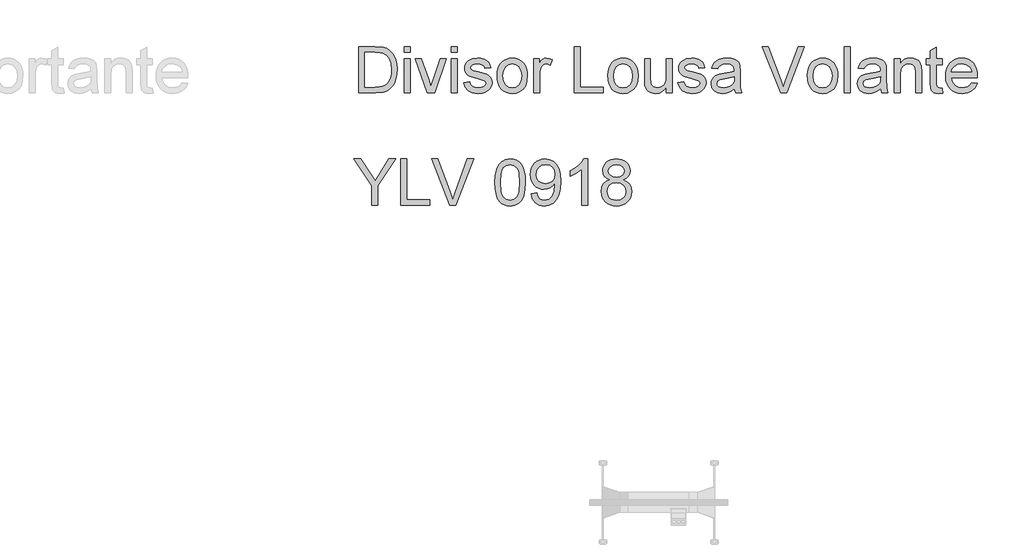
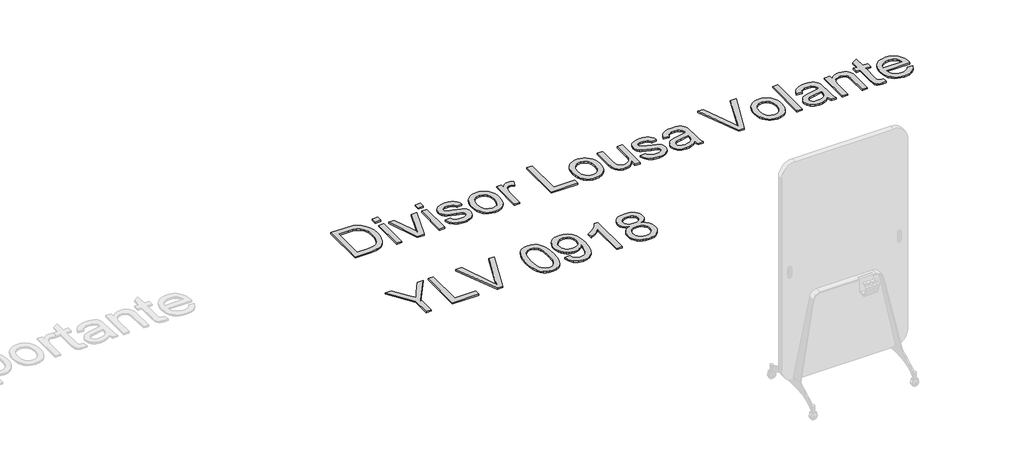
# One storey, part 14 of 26: 1 proxy.
"""IFC4 building model written with IfcOpenShell, lengths in millimetres."""

from ifc_helpers import new_model, si_unit, origin, origin_with_axes, place, context, project, spatial, polyline, outline, extrude, element, save

model = new_model("IFC4")

# Units and contexts
model_context = context("Model", 3, world=origin())
ifc_project = project(units=[si_unit("LENGTHUNIT", "METRE", prefix="MILLI")], contexts=[model_context])

# Site, building, storey
site = spatial("IfcSite", under=ifc_project)
building = spatial("IfcBuilding", under=site)
storey = spatial("IfcBuildingStorey", under=building, Name="Marelli - Linha YOUNG - Planta Baixa", Elevation=0.0)

# Proxy
placement = place(None, origin())
element("IfcBuildingElementProxy", 1, Name="300mm Arial", ObjectType="300mm Arial", at=placement, inside=storey, context=model_context, shape_type="SweptSolid", body=[
    extrude(outline(polyline([(-1099.3648392, -19914.6418665), (-1099.3648392, -19613.2729361), (-995.4013873, -19613.2729361), (-941.6170396, -19617.6139436), (-917.5943453, -19625.983259), (-897.3240474, -19639.1718285), (-876.4835324, -19662.127665), (-861.6394939, -19690.6753079), (-852.7551437, -19724.262934), (-849.7936936, -19762.3387205), (-851.7986505, -19794.684745), (-857.8135211, -19823.1496143), (-866.9737828, -19847.3838408), (-878.4149129, -19867.0379364), (-891.5850883, -19882.5533595), (-905.9324861, -19894.3715686), (-922.4044024, -19903.1363571), (-941.9481334, -19909.4915186), (-990.3981922, -19914.6418665), (-1099.3648392, -19914.6418665)]), holes=[polyline([(-1061.6937229, -19876.9707502), (-995.0335053, -19876.9707502), (-967.4607498, -19875.6095868), (-946.5466584, -19871.5260967), (-930.7645208, -19864.9594031), (-918.5876267, -19856.1486293), (-905.5002248, -19839.8422599), (-895.6685784, -19818.7350304), (-889.5157521, -19792.7349704), (-887.4648099, -19761.7501093), (-891.4839207, -19720.6944787), (-903.5412531, -19690.3810023), (-921.3559387, -19669.5588813), (-942.6471092, -19656.9773171), (-964.3153587, -19652.4523686), (-996.0635749, -19650.9440524), (-1061.6937229, -19650.9440524), (-1061.6937229, -19876.9707502)])]), origin_with_axes(), (0.0, 0.0, 1.0), 10.0),
    extrude(outline(polyline([(-802.7047983, -19650.9440524), (-802.7047983, -19613.2729361), (-765.0336819, -19613.2729361), (-765.0336819, -19650.9440524), (-802.7047983, -19650.9440524)])), origin_with_axes(), (0.0, 0.0, 1.0), 10.0),
    extrude(outline(polyline([(-802.7047983, -19914.6418665), (-802.7047983, -19693.3240582), (-765.0336819, -19693.3240582), (-765.0336819, -19914.6418665), (-802.7047983, -19914.6418665)])), origin_with_axes(), (0.0, 0.0, 1.0), 10.0),
    extrude(outline(polyline([(-654.227625, -19914.6418665), (-732.0714552, -19693.3240582), (-692.1930469, -19693.3240582), (-645.0305751, -19825.9087293), (-630.8303301, -19870.4960271), (-616.9243907, -19828.4103269), (-569.4676133, -19693.3240582), (-529.589205, -19693.3240582), (-606.476542, -19914.6418665), (-654.227625, -19914.6418665)])), origin_with_axes(), (0.0, 0.0, 1.0), 10.0),
    extrude(outline(polyline([(-496.6269783, -19914.6418665), (-496.6269783, -19693.3240582), (-458.955862, -19693.3240582), (-458.955862, -19914.6418665), (-496.6269783, -19914.6418665)])), origin_with_axes(), (0.0, 0.0, 1.0), 10.0),
    extrude(outline(polyline([(-496.6269783, -19650.9440524), (-496.6269783, -19613.2729361), (-458.955862, -19613.2729361), (-458.955862, -19650.9440524), (-496.6269783, -19650.9440524)])), origin_with_axes(), (0.0, 0.0, 1.0), 10.0),
    extrude(outline(polyline([(-416.5758561, -19848.717413), (-378.9047398, -19844.0085235), (-372.9634456, -19860.1217548), (-361.4671332, -19871.9675551), (-344.3422264, -19879.2516186), (-321.5151486, -19881.6796398), (-298.9639823, -19879.4539537), (-283.1082683, -19872.7768955), (-273.7272774, -19863.101599), (-270.6002804, -19851.8811982), (-273.7456715, -19842.2794781), (-283.1818447, -19834.9586264), (-321.956607, -19824.2164721), (-378.6840106, -19805.7855842), (-393.0406055, -19796.5241549), (-403.4424689, -19784.2644874), (-409.7608422, -19769.7883309), (-411.8669666, -19753.8774346), (-410.1747094, -19739.2817165), (-405.0979379, -19725.8080384), (-397.0965045, -19713.9898293), (-386.6302617, -19704.3605181), (-362.6811438, -19693.2136936), (-330.27074, -19688.6151687), (-305.7514051, -19690.4637757), (-284.4326434, -19696.0095968), (-267.2893425, -19704.710006), (-255.2963894, -19716.0223773), (-247.3501383, -19730.7836424), (-242.3469432, -19749.8307327), (-280.0180595, -19754.5396222), (-284.7729343, -19742.6846249), (-294.1815163, -19733.7542895), (-308.3357761, -19728.1532861), (-327.3276841, -19726.286285), (-348.9591454, -19728.0705127), (-363.3801196, -19733.4231957), (-371.4919176, -19741.1487176), (-374.1958503, -19750.0514619), (-369.7076899, -19761.0143453), (-355.6545977, -19769.3284784), (-323.2074057, -19777.3483059), (-267.9147419, -19795.0802181), (-253.3098267, -19803.5598981), (-242.2365786, -19815.166575), (-235.2560177, -19829.9370371), (-232.9291641, -19847.9080726), (-235.6606879, -19866.4861134), (-243.8552594, -19883.9605081), (-257.2001788, -19898.9608965), (-275.3827464, -19910.116918), (-297.3453015, -19917.0422966), (-322.0301834, -19919.3507561), (-360.0139994, -19914.8993839), (-387.7339077, -19901.5452675), (-406.2383721, -19879.4355596), (-416.5758561, -19848.717413)])), origin_with_axes(), (0.0, 0.0, 1.0), 10.0),
    extrude(outline(polyline([(-199.9669374, -19803.9829624), (-197.9297908, -19775.3203564), (-191.8183512, -19750.621679), (-181.6326184, -19729.88693), (-167.3725926, -19713.1161096), (-153.0159977, -19702.3969479), (-137.1694808, -19694.7404039), (-119.8330418, -19690.1464775), (-101.0066807, -19688.6151687), (-80.2236472, -19690.4798706), (-61.431775, -19696.0739761), (-44.6310642, -19705.3974855), (-29.8215146, -19718.4503985), (-17.7342918, -19734.7912569), (-9.1005612, -19753.9786022), (-3.9203229, -19776.0124344), (-2.1935767, -19800.8927536), (-5.2469973, -19838.950146), (-14.407259, -19867.9208531), (-29.4076473, -19889.6166938), (-49.9814479, -19905.8494868), (-74.4180095, -19915.9754388), (-101.0066807, -19919.3507561), (-122.0932168, -19917.492952), (-141.0598329, -19911.9195398), (-157.906529, -19902.6305194), (-172.6333051, -19889.6258909), (-184.5917692, -19873.1263834), (-193.1335293, -19853.3527261), (-198.2585853, -19830.3049191), (-199.9669374, -19803.9829624)]), holes=[polyline([(-162.2958211, -19803.909386), (-157.9364194, -19838.0028499), (-144.8582145, -19862.2922586), (-125.1765277, -19876.8327945), (-101.0066807, -19881.6796398), (-76.9471982, -19876.8052033), (-57.3022996, -19862.181894), (-44.2240947, -19837.5705885), (-39.8646931, -19802.7321636), (-44.2516858, -19769.6319811), (-57.4126642, -19745.6736661), (-77.0851539, -19731.1331303), (-101.0066807, -19726.286285), (-125.1765277, -19731.1147362), (-144.8582145, -19745.6000897), (-157.9364194, -19769.8343162), (-162.2958211, -19803.909386)])]), origin_with_axes(), (0.0, 0.0, 1.0), 10.0),
    extrude(outline(polyline([(40.1864291, -19914.6418665), (40.1864291, -19693.3240582), (73.1486559, -19693.3240582), (73.1486559, -19726.0655558), (85.3255499, -19707.0828449), (96.5459508, -19695.8992322), (107.8031398, -19690.4361846), (120.0903984, -19688.6151687), (138.8523802, -19691.5214365), (157.9086676, -19700.2402397), (145.3271033, -19734.0118069), (132.0833515, -19728.2176655), (118.8395997, -19726.286285), (107.5916077, -19728.1440891), (97.5392321, -19733.7175013), (89.4182371, -19742.5834574), (83.9643865, -19754.318893), (79.3842557, -19775.3617432), (77.8575454, -19798.3175797), (77.8575454, -19914.6418665), (40.1864291, -19914.6418665)])), origin_with_axes(), (0.0, 0.0, 1.0), 10.0),
    extrude(outline(polyline([(303.8842432, -19914.6418665), (303.8842432, -19613.2729361), (341.5553595, -19613.2729361), (341.5553595, -19876.9707502), (492.2398248, -19876.9707502), (492.2398248, -19914.6418665), (303.8842432, -19914.6418665)])), origin_with_axes(), (0.0, 0.0, 1.0), 10.0),
    extrude(outline(polyline([(520.493162, -19803.9829624), (522.5303085, -19775.3203564), (528.6417482, -19750.621679), (538.8274809, -19729.88693), (553.0875068, -19713.1161096), (567.4441016, -19702.3969479), (583.2906186, -19694.7404039), (600.6270576, -19690.1464775), (619.4534187, -19688.6151687), (640.2364522, -19690.4798706), (659.0283243, -19696.0739761), (675.8290352, -19705.3974855), (690.6385848, -19718.4503985), (702.7258076, -19734.7912569), (711.3595381, -19753.9786022), (716.5397765, -19776.0124344), (718.2665226, -19800.8927536), (715.213102, -19838.950146), (706.0528404, -19867.9208531), (691.052452, -19889.6166938), (670.4786514, -19905.8494868), (646.0420899, -19915.9754388), (619.4534187, -19919.3507561), (598.3668826, -19917.492952), (579.4002665, -19911.9195398), (562.5535704, -19902.6305194), (547.8267942, -19889.6258909), (535.8683301, -19873.1263834), (527.3265701, -19853.3527261), (522.201514, -19830.3049191), (520.493162, -19803.9829624)]), holes=[polyline([(558.1642783, -19803.909386), (562.5236799, -19838.0028499), (575.6018849, -19862.2922586), (595.2835716, -19876.8327945), (619.4534187, -19881.6796398), (643.5129012, -19876.8052033), (663.1577997, -19862.181894), (676.2360047, -19837.5705885), (680.5954063, -19802.7321636), (676.2084135, -19769.6319811), (663.0474351, -19745.6736661), (643.3749454, -19731.1331303), (619.4534187, -19726.286285), (595.2835716, -19731.1147362), (575.6018849, -19745.6000897), (562.5236799, -19769.8343162), (558.1642783, -19803.909386)])]), origin_with_axes(), (0.0, 0.0, 1.0), 10.0),
    extrude(outline(polyline([(901.9132146, -19914.6418665), (901.9132146, -19876.6028682), (888.2831867, -19895.3050692), (872.4090786, -19908.6637841), (854.2908903, -19916.6790131), (833.9286219, -19919.3507561), (815.5805074, -19917.4745579), (798.5015858, -19911.8459634), (784.172582, -19903.3846775), (774.0742213, -19893.0104052), (762.8538204, -19865.2721028), (760.6465284, -19830.2497368), (760.6465284, -19693.3240582), (798.3176448, -19693.3240582), (798.3176448, -19812.5178247), (800.5985131, -19850.924705), (806.0891519, -19863.7361954), (815.4977339, -19873.4758713), (828.1988598, -19879.6286976), (843.5671302, -19881.6796398), (859.8183173, -19879.5827124), (875.0210407, -19873.2919303), (887.5566197, -19863.3867076), (895.8063735, -19850.4464584), (900.3865043, -19832.7237433), (901.9132146, -19808.4711227), (901.9132146, -19693.3240582), (939.5843309, -19693.3240582), (939.5843309, -19914.6418665), (901.9132146, -19914.6418665)])), origin_with_axes(), (0.0, 0.0, 1.0), 10.0),
    extrude(outline(polyline([(977.2554472, -19848.717413), (1014.9265635, -19844.0085235), (1020.8678577, -19860.1217548), (1032.3641701, -19871.9675551), (1049.489077, -19879.2516186), (1072.3161548, -19881.6796398), (1094.8673211, -19879.4539537), (1110.7230351, -19872.7768955), (1120.1040259, -19863.101599), (1123.2310229, -19851.8811982), (1120.0856318, -19842.2794781), (1110.6494587, -19834.9586264), (1071.8746964, -19824.2164721), (1015.1472927, -19805.7855842), (1000.7906979, -19796.5241549), (990.3888344, -19784.2644874), (984.0704612, -19769.7883309), (981.9643367, -19753.8774346), (983.6565939, -19739.2817165), (988.7333655, -19725.8080384), (996.7347989, -19713.9898293), (1007.2010416, -19704.3605181), (1031.1501595, -19693.2136936), (1063.5605633, -19688.6151687), (1088.0798983, -19690.4637757), (1109.3986599, -19696.0095968), (1126.5419609, -19704.710006), (1138.5349139, -19716.0223773), (1146.481165, -19730.7836424), (1151.4843601, -19749.8307327), (1113.8132438, -19754.5396222), (1109.058369, -19742.6846249), (1099.649787, -19733.7542895), (1085.4955272, -19728.1532861), (1066.5036192, -19726.286285), (1044.8721579, -19728.0705127), (1030.4511837, -19733.4231957), (1022.3393857, -19741.1487176), (1019.6354531, -19750.0514619), (1024.1236134, -19761.0143453), (1038.1767056, -19769.3284784), (1070.6238976, -19777.3483059), (1125.9165615, -19795.0802181), (1140.5214767, -19803.5598981), (1151.5947247, -19815.166575), (1158.5752856, -19829.9370371), (1160.9021392, -19847.9080726), (1158.1706154, -19866.4861134), (1149.9760439, -19883.9605081), (1136.6311246, -19898.9608965), (1118.448557, -19910.116918), (1096.4860018, -19917.0422966), (1071.80112, -19919.3507561), (1033.817304, -19914.8993839), (1006.0973956, -19901.5452675), (987.5929313, -19879.4355596), (977.2554472, -19848.717413)])), origin_with_axes(), (0.0, 0.0, 1.0), 10.0),
    extrude(outline(polyline([(1344.5488312, -19886.3885293), (1326.5502046, -19901.821179), (1308.0181491, -19911.9195398), (1288.5296004, -19917.492952), (1267.6614942, -19919.3507561), (1236.1799925, -19914.8809898), (1212.9574415, -19901.4716911), (1198.6376349, -19881.1094227), (1193.864366, -19855.7807473), (1195.6669877, -19840.1641566), (1201.0748531, -19825.9823057), (1209.4165773, -19813.8421999), (1220.0207758, -19804.3508444), (1246.3979149, -19791.9900093), (1278.9922597, -19786.3246266), (1317.5095045, -19780.3649383), (1344.328102, -19773.3751804), (1344.5488312, -19764.9874709), (1341.9552631, -19748.1752637), (1334.1745589, -19737.1755921), (1316.7737406, -19729.0086118), (1292.5303171, -19726.286285), (1270.0895154, -19728.0981038), (1254.4177424, -19733.5335603), (1243.7307704, -19743.5859358), (1236.2443718, -19759.2485118), (1198.5732555, -19754.5396222), (1205.112358, -19733.9382305), (1214.8704279, -19717.7514227), (1228.7579732, -19705.3721936), (1247.6855019, -19696.1935378), (1270.8344764, -19690.509761), (1297.3863594, -19688.6151687), (1322.8529905, -19690.2890318), (1343.040515, -19695.310621), (1358.2616326, -19702.861399), (1368.8290429, -19712.1228282), (1375.8371949, -19723.5731553), (1380.3805375, -19737.6906269), (1382.2199475, -19770.6528536), (1382.2199475, -19817.5210198), (1384.1329339, -19882.9672267), (1391.6377266, -19914.6418665), (1353.9666103, -19914.6418665), (1344.5488312, -19886.3885293)]), holes=[polyline([(1344.5488312, -19811.0462967), (1283.7747256, -19822.5977913), (1251.3643218, -19828.7046325), (1236.6858302, -19838.6374463), (1231.5354823, -19853.1319969), (1234.3405825, -19864.3340037), (1242.7558831, -19873.5126595), (1256.5974432, -19879.6378947), (1275.6813217, -19881.6796398), (1295.9148314, -19879.4263625), (1313.7938964, -19872.6665309), (1328.288447, -19862.7061259), (1338.3684137, -19850.8511286), (1342.8381799, -19838.6374463), (1344.328102, -19821.7148746), (1344.5488312, -19811.0462967)])]), origin_with_axes(), (0.0, 0.0, 1.0), 10.0),
    extrude(outline(polyline([(1645.4763032, -19914.6418665), (1525.5467728, -19613.2729361), (1565.8666395, -19613.2729361), (1646.1384908, -19830.3968896), (1662.398875, -19879.325195), (1678.43853, -19830.3968896), (1758.9311106, -19613.2729361), (1799.2509772, -19613.2729361), (1684.3982183, -19914.6418665), (1645.4763032, -19914.6418665)])), origin_with_axes(), (0.0, 0.0, 1.0), 10.0),
    extrude(outline(polyline([(1820.1466746, -19803.9829624), (1822.1838211, -19775.3203564), (1828.2952608, -19750.621679), (1838.4809935, -19729.88693), (1852.7410193, -19713.1161096), (1867.0976142, -19702.3969479), (1882.9441311, -19694.7404039), (1900.2805702, -19690.1464775), (1919.1069313, -19688.6151687), (1939.8899647, -19690.4798706), (1958.6818369, -19696.0739761), (1975.4825478, -19705.3974855), (1990.2920973, -19718.4503985), (2002.3793201, -19734.7912569), (2011.0130507, -19753.9786022), (2016.1932891, -19776.0124344), (2017.9200352, -19800.8927536), (2014.8666146, -19838.950146), (2005.7063529, -19867.9208531), (1990.7059646, -19889.6166938), (1970.132164, -19905.8494868), (1945.6956025, -19915.9754388), (1919.1069313, -19919.3507561), (1898.0203951, -19917.492952), (1879.053779, -19911.9195398), (1862.2070829, -19902.6305194), (1847.4803068, -19889.6258909), (1835.5218427, -19873.1263834), (1826.9800826, -19853.3527261), (1821.8550266, -19830.3049191), (1820.1466746, -19803.9829624)]), holes=[polyline([(1857.8177909, -19803.909386), (1862.1771925, -19838.0028499), (1875.2553974, -19862.2922586), (1894.9370842, -19876.8327945), (1919.1069313, -19881.6796398), (1943.1664137, -19876.8052033), (1962.8113123, -19862.181894), (1975.8895172, -19837.5705885), (1980.2489189, -19802.7321636), (1975.8619261, -19769.6319811), (1962.7009477, -19745.6736661), (1943.028458, -19731.1331303), (1919.1069313, -19726.286285), (1894.9370842, -19731.1147362), (1875.2553974, -19745.6000897), (1862.1771925, -19769.8343162), (1857.8177909, -19803.909386)])]), origin_with_axes(), (0.0, 0.0, 1.0), 10.0),
    extrude(outline(polyline([(2060.300041, -19914.6418665), (2060.300041, -19613.2729361), (2097.9711573, -19613.2729361), (2097.9711573, -19914.6418665), (2060.300041, -19914.6418665)])), origin_with_axes(), (0.0, 0.0, 1.0), 10.0),
    extrude(outline(polyline([(2295.7445179, -19886.3885293), (2277.7458913, -19901.821179), (2259.2138358, -19911.9195398), (2239.7252871, -19917.492952), (2218.8571809, -19919.3507561), (2187.3756792, -19914.8809898), (2164.1531282, -19901.4716911), (2149.8333216, -19881.1094227), (2145.0600527, -19855.7807473), (2146.8626745, -19840.1641566), (2152.2705398, -19825.9823057), (2160.612264, -19813.8421999), (2171.2164626, -19804.3508444), (2197.5936016, -19791.9900093), (2230.1879464, -19786.3246266), (2268.7051913, -19780.3649383), (2295.5237887, -19773.3751804), (2295.7445179, -19764.9874709), (2293.1509499, -19748.1752637), (2285.3702457, -19737.1755921), (2267.9694273, -19729.0086118), (2243.7260038, -19726.286285), (2221.2852021, -19728.0981038), (2205.6134291, -19733.5335603), (2194.9264571, -19743.5859358), (2187.4400585, -19759.2485118), (2149.7689422, -19754.5396222), (2156.3080447, -19733.9382305), (2166.0661146, -19717.7514227), (2179.9536599, -19705.3721936), (2198.8811886, -19696.1935378), (2222.0301631, -19690.509761), (2248.5820461, -19688.6151687), (2274.0486773, -19690.2890318), (2294.2362017, -19695.310621), (2309.4573193, -19702.861399), (2320.0247296, -19712.1228282), (2327.0328816, -19723.5731553), (2331.5762243, -19737.6906269), (2333.4156342, -19770.6528536), (2333.4156342, -19817.5210198), (2335.3286206, -19882.9672267), (2342.8334133, -19914.6418665), (2305.162297, -19914.6418665), (2295.7445179, -19886.3885293)]), holes=[polyline([(2295.7445179, -19811.0462967), (2234.9704123, -19822.5977913), (2202.5600085, -19828.7046325), (2187.8815169, -19838.6374463), (2182.731169, -19853.1319969), (2185.5362692, -19864.3340037), (2193.9515699, -19873.5126595), (2207.7931299, -19879.6378947), (2226.8770084, -19881.6796398), (2247.1105182, -19879.4263625), (2264.9895831, -19872.6665309), (2279.4841337, -19862.7061259), (2289.5641004, -19850.8511286), (2294.0338666, -19838.6374463), (2295.5237887, -19821.7148746), (2295.7445179, -19811.0462967)])]), origin_with_axes(), (0.0, 0.0, 1.0), 10.0),
    extrude(outline(polyline([(2385.2134191, -19914.6418665), (2385.2134191, -19693.3240582), (2422.8845355, -19693.3240582), (2422.8845355, -19724.2261458), (2435.9719374, -19708.6463433), (2451.6896957, -19697.517913), (2470.0378102, -19690.8408548), (2491.016281, -19688.6151687), (2509.5851247, -19690.4085934), (2526.5904699, -19695.7888676), (2540.7723208, -19704.0846066), (2550.8706816, -19714.6244258), (2562.1646588, -19742.32594), (2564.1512216, -19778.7462575), (2564.1512216, -19914.6418665), (2526.4801053, -19914.6418665), (2526.4801053, -19783.823029), (2522.1390978, -19750.4929203), (2516.1334242, -19740.5693035), (2506.7984186, -19732.8713727), (2494.8330567, -19727.9325569), (2480.9363143, -19726.286285), (2458.8725916, -19729.9834991), (2440.0646246, -19741.0751412), (2432.5483356, -19750.1296368), (2427.1795577, -19762.5042674), (2422.8845355, -19797.2139337), (2422.8845355, -19914.6418665), (2385.2134191, -19914.6418665)])), origin_with_axes(), (0.0, 0.0, 1.0), 10.0),
    extrude(outline(polyline([(2696.0001287, -19883.2247441), (2700.7090182, -19915.7455125), (2672.5292574, -19919.3507561), (2654.4478573, -19917.7872576), (2640.9649822, -19913.0967622), (2631.4368385, -19905.8678809), (2625.2196328, -19896.6892252), (2621.7983302, -19880.9254817), (2620.6578961, -19853.9413373), (2620.6578961, -19730.9951745), (2592.4045588, -19730.9951745), (2592.4045588, -19693.3240582), (2620.6578961, -19693.3240582), (2620.6578961, -19639.5397105), (2658.3290124, -19617.3932144), (2658.3290124, -19693.3240582), (2696.0001287, -19693.3240582), (2696.0001287, -19730.9951745), (2658.3290124, -19730.9951745), (2658.3290124, -19852.8376913), (2660.3155751, -19872.2618607), (2666.7535101, -19879.141254), (2679.5925917, -19881.6796398), (2696.0001287, -19883.2247441)])), origin_with_axes(), (0.0, 0.0, 1.0), 10.0),
    extrude(outline(polyline([(2888.6231413, -19848.717413), (2925.5584937, -19853.4263025), (2912.2503625, -19881.2565755), (2891.0143743, -19902.0603023), (2862.3287757, -19915.0281426), (2826.6718134, -19919.3507561), (2803.2975111, -19917.4860542), (2782.4707916, -19911.8919486), (2764.191655, -19902.5684393), (2748.4601012, -19889.5155263), (2735.8095591, -19873.096493), (2726.7734576, -19853.6746229), (2721.3517967, -19831.249916), (2719.5445764, -19805.8223724), (2721.3701908, -19779.5326053), (2726.847034, -19756.3606381), (2735.975106, -19736.3064708), (2748.7544068, -19719.3701035), (2764.4445739, -19705.9148195), (2782.3052447, -19696.3039024), (2802.3364194, -19690.5373521), (2824.5380978, -19688.6151687), (2846.0247056, -19690.5327536), (2865.4557727, -19696.2855083), (2882.8312992, -19705.8734328), (2898.151285, -19719.2965271), (2910.6569736, -19736.1961062), (2919.5896083, -19756.2134853), (2924.9491891, -19779.3486643), (2926.735716, -19805.6016432), (2926.5149869, -19815.7551862), (2757.2156927, -19815.7551862), (2763.736401, -19843.9533412), (2778.8839422, -19864.6834916), (2800.7453298, -19877.4306027), (2827.4075774, -19881.6796398), (2847.4571461, -19879.7114711), (2864.3429297, -19873.8069651), (2878.0649281, -19863.5982397), (2888.6231413, -19848.717413)]), holes=[polyline([(2757.2156927, -19778.0840699), (2889.0645997, -19778.0840699), (2883.9694341, -19758.181654), (2873.9814379, -19743.9446208), (2852.0188828, -19730.7008689), (2824.390945, -19726.286285), (2798.9978903, -19729.8087551), (2778.0010254, -19740.3761654), (2763.4053072, -19756.8480818), (2757.2156927, -19778.0840699)])]), origin_with_axes(), (0.0, 0.0, 1.0), 10.0),
    extrude(outline(polyline([(-1014.6048275, -20646.4907736), (-1014.6048275, -20518.8357213), (-1132.3270659, -20345.1218432), (-1087.8869209, -20345.1218432), (-1025.0526761, -20437.9016823), (-992.8997898, -20485.2113069), (-960.673327, -20434.517168), (-903.6516177, -20345.1218432), (-859.2114727, -20345.1218432), (-976.9337112, -20518.8357213), (-976.9337112, -20646.4907736), (-1014.6048275, -20646.4907736)])), origin_with_axes(), (0.0, 0.0, 1.0), 10.0),
    extrude(outline(polyline([(-826.2492459, -20646.4907736), (-826.2492459, -20345.1218432), (-788.5781296, -20345.1218432), (-788.5781296, -20608.8196573), (-637.8936644, -20608.8196573), (-637.8936644, -20646.4907736), (-826.2492459, -20646.4907736)])), origin_with_axes(), (0.0, 0.0, 1.0), 10.0),
    extrude(outline(polyline([(-506.4862157, -20646.4907736), (-626.4157462, -20345.1218432), (-586.0958795, -20345.1218432), (-505.8240281, -20562.2457967), (-489.563644, -20611.1741021), (-473.523989, -20562.2457967), (-393.0314084, -20345.1218432), (-352.7115418, -20345.1218432), (-467.5643006, -20646.4907736), (-506.4862157, -20646.4907736)])), origin_with_axes(), (0.0, 0.0, 1.0), 10.0),
    extrude(outline(polyline([(-214.093606, -20498.2343295), (-211.325294, -20449.9958029), (-203.0203579, -20411.5245433), (-189.2615713, -20382.2319394), (-170.1317075, -20361.5293801), (-145.4928109, -20349.2237274), (-115.2069257, -20345.1218432), (-91.9935718, -20347.5498643), (-71.208239, -20354.8339278), (-53.8258148, -20366.6889251), (-40.8211862, -20382.8297477), (-30.998737, -20403.1184397), (-23.1628505, -20427.4170455), (-18.0308966, -20458.2731478), (-16.3202454, -20498.2343295), (-19.0609662, -20546.1969447), (-27.2831288, -20584.5762338), (-40.959142, -20613.8964288), (-60.0614146, -20634.6817616), (-84.7554935, -20647.0701877), (-115.2069257, -20651.1996631), (-135.9554702, -20649.4062384), (-154.34957, -20644.0259642), (-170.3892249, -20635.0588406), (-184.0744352, -20622.5048675), (-197.2078224, -20599.8111469), (-206.5888133, -20571.5348171), (-212.2174078, -20537.675878), (-214.093606, -20498.2343295)]), holes=[polyline([(-176.4224897, -20498.1607531), (-172.0079057, -20557.4173455), (-166.4896758, -20577.6853442), (-158.7641539, -20591.7131445), (-139.045679, -20608.0746963), (-115.2069257, -20613.5285468), (-91.3681724, -20608.0563022), (-71.6496974, -20591.6395681), (-63.9241755, -20577.5887752), (-58.4059456, -20557.325375), (-53.9913617, -20498.1607531), (-58.2587928, -20440.237733), (-63.5930817, -20420.0364129), (-71.0610862, -20405.6752196), (-90.742773, -20388.5135245), (-115.6483841, -20382.7929595), (-139.22962, -20387.8329428), (-158.1755427, -20402.9528928), (-166.158582, -20418.5878776), (-171.8607529, -20439.6675159), (-176.4224897, -20498.1607531)])]), origin_with_axes(), (0.0, 0.0, 1.0), 10.0),
    extrude(outline(polyline([(21.3508709, -20571.148541), (59.0219872, -20566.4396515), (65.4599222, -20587.8227924), (75.944559, -20602.3817224), (90.2183804, -20610.7418407), (108.023869, -20613.5285468), (123.9991446, -20611.7351221), (138.5212864, -20606.3548479), (150.5878158, -20597.9763355), (159.1962545, -20587.188196), (171.5203014, -20554.4466984), (176.9649549, -20510.7423174), (176.7442257, -20503.3846775), (163.6936119, -20519.3139679), (146.6146903, -20531.9323203), (126.7398655, -20540.1544829), (105.3015422, -20542.8952038), (87.4063824, -20541.2213407), (70.9505609, -20536.1997514), (55.9340778, -20527.8304361), (42.3569329, -20516.1133945), (31.1066416, -20501.6602306), (23.0707193, -20485.0825482), (18.2491659, -20466.3803473), (16.6419814, -20445.5536278), (18.3273408, -20424.0325311), (23.383419, -20404.7187264), (31.8102159, -20387.6122136), (43.6077316, -20372.7129928), (57.9436331, -20360.6418648), (73.9855874, -20352.0196306), (91.7335944, -20346.84629), (111.1876542, -20345.1218432), (139.2846415, -20349.0581805), (164.8616373, -20360.8671925), (186.2539753, -20379.9602681), (201.7969896, -20405.748796), (211.2607539, -20441.3965613), (214.415342, -20490.0673493), (211.269951, -20541.6719961), (201.8337778, -20581.5596015), (186.1895959, -20611.532787), (164.4201789, -20633.3941746), (137.4636257, -20646.748291), (106.2580354, -20651.1996631), (74.0499668, -20645.9481477), (48.3534094, -20630.1936012), (30.3823739, -20604.9293052), (21.3508709, -20571.148541)]), holes=[polyline([(176.7442257, -20444.670711), (172.6791297, -20419.1397006), (160.4838415, -20399.494802), (141.5563129, -20386.9684201), (117.2944953, -20382.7929595), (92.1313668, -20387.2903169), (71.9714335, -20400.782389), (58.7276817, -20421.429766), (54.3130977, -20447.3930378), (58.4885584, -20470.6707711), (71.0149403, -20489.1476443), (90.6782329, -20501.2049767), (116.2644257, -20505.2240875), (140.3331052, -20501.2049767), (159.7112893, -20489.1476443), (172.4859916, -20469.9901894), (176.7442257, -20444.670711)])]), origin_with_axes(), (0.0, 0.0, 1.0), 10.0),
    extrude(outline(polyline([(388.6442549, -20646.4907736), (350.9731386, -20646.4907736), (350.9731386, -20411.6349079), (315.2885851, -20437.0555537), (275.630906, -20456.0750529), (275.630906, -20420.4640758), (305.2178155, -20404.3692385), (330.8499935, -20385.2209806), (351.0559121, -20364.8587122), (364.3640432, -20345.1218432), (388.6442549, -20345.1218432), (388.6442549, -20646.4907736)])), origin_with_axes(), (0.0, 0.0, 1.0), 10.0),
    extrude(outline(polyline([(533.0011498, -20480.5024174), (512.8320194, -20470.5696035), (498.6777597, -20457.1051225), (490.3176413, -20440.3848858), (487.5309352, -20420.684805), (489.0484485, -20405.3211331), (493.6009882, -20391.2358513), (501.1885543, -20378.4289593), (511.8111469, -20366.9004573), (524.9583297, -20357.3723136), (540.1196664, -20350.5664967), (576.4848017, -20345.1218432), (613.0706661, -20350.6952554), (628.3975497, -20357.6620207), (641.7470676, -20367.4154921), (652.5627983, -20379.1693218), (660.2883202, -20392.1371621), (664.9236333, -20406.3190131), (666.4687377, -20421.7148746), (663.7188198, -20440.780359), (655.469066, -20457.2154871), (641.627506, -20470.5971947), (622.1021691, -20480.5024174), (645.2879318, -20492.4493852), (662.1645183, -20510.0433416), (672.4560172, -20532.438158), (675.8865168, -20558.787706), (674.1850625, -20577.5772789), (669.0806998, -20594.8033533), (660.5734287, -20610.4659292), (648.6632491, -20624.5650067), (633.9755605, -20636.2176689), (617.1357621, -20644.540999), (598.1438541, -20649.5349971), (576.9998365, -20651.1996631), (555.8558188, -20649.5280993), (536.8639108, -20644.5134079), (520.0241125, -20636.1555888), (505.3364238, -20624.4546421), (493.4262442, -20610.2566963), (484.9189731, -20594.4078801), (479.8146104, -20576.9081935), (478.1131562, -20557.7576364), (481.6816115, -20530.3872159), (492.3869776, -20507.8728378), (509.6774313, -20490.9870542), (533.0011498, -20480.5024174)]), holes=[polyline([(525.2020515, -20421.7884509), (528.5405806, -20438.2327761), (538.556168, -20451.3661634), (554.9545079, -20459.974602), (577.4412949, -20462.8440816), (599.40385, -20459.9929961), (615.5538696, -20451.4397398), (625.4866834, -20438.7478109), (628.7976214, -20423.4807081), (625.3763188, -20407.6341912), (615.1124112, -20394.5283951), (598.7416624, -20385.7268184), (576.9998365, -20382.7929595), (555.1200548, -20385.662439), (538.7768972, -20394.2708777), (528.5957629, -20406.8892301), (525.2020515, -20421.7884509)]), polyline([(515.7842725, -20556.4332612), (522.0750546, -20584.796963), (530.7846608, -20596.96466), (544.3319153, -20606.0237541), (560.5555113, -20611.6523487), (577.2941421, -20613.5285468), (602.9355171, -20609.5830124), (622.1757455, -20597.7464092), (634.2054867, -20579.821359), (638.2154005, -20557.6104836), (634.076728, -20535.0225291), (621.6607107, -20516.7020057), (601.9790239, -20504.5618999), (576.0433433, -20500.5151979), (550.7606532, -20504.5067176), (531.7135629, -20516.4812765), (519.7665951, -20534.452312), (515.7842725, -20556.4332612)])]), origin_with_axes(), (0.0, 0.0, 1.0), 10.0),
])

save(model, "model.ifc")
